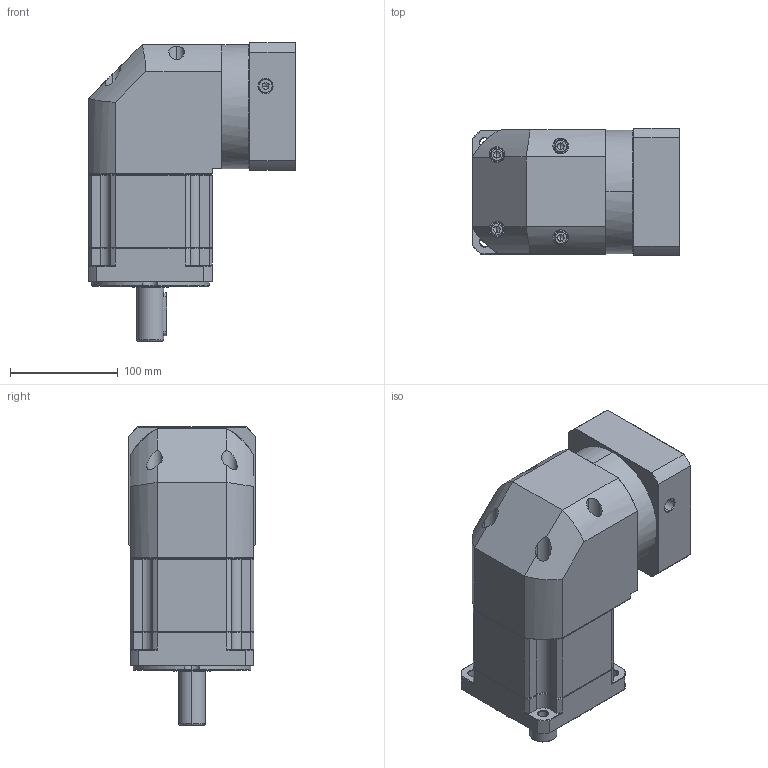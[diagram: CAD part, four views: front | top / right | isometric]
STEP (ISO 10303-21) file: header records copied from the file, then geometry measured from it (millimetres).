
FILE_DESCRIPTION (( 'STEP AP214' ), '1' );
FILE_NAME ('ZBR115A-D25-L2-P2-22-110-130-M8.step', '2023-08-26T12:32:42', ( '' ), ( '' ), 'SwSTEP 2.0', 'SolidWorks 2016', '' );
FILE_SCHEMA (( 'AUTOMOTIVE_DESIGN' ));
Length unit declared in the file: millimetre
Products named in the file (1): ZBR115A-D25-L2-P2-22-110-130-M8
Bounding box: 192.4 x 118 x 276.5 mm (x, y, z)
Volume: 3264661.2 mm3; surface area: 258855.8 mm2
Topology: 6 solids, 6 shells, 2380 faces, 6223 edges, 3947 vertices
Faces by surface type: plane 1139, cylinder 439, bspline 425, cone 369, torus 8
Entity records: 127937 total; most frequent: CARTESIAN_POINT 46895, ORIENTED_EDGE 12386, DIRECTION 9760, EDGE_CURVE 6193, VECTOR 3990, LINE 3990, VERTEX_POINT 3947, AXIS2_PLACEMENT_3D 2885
